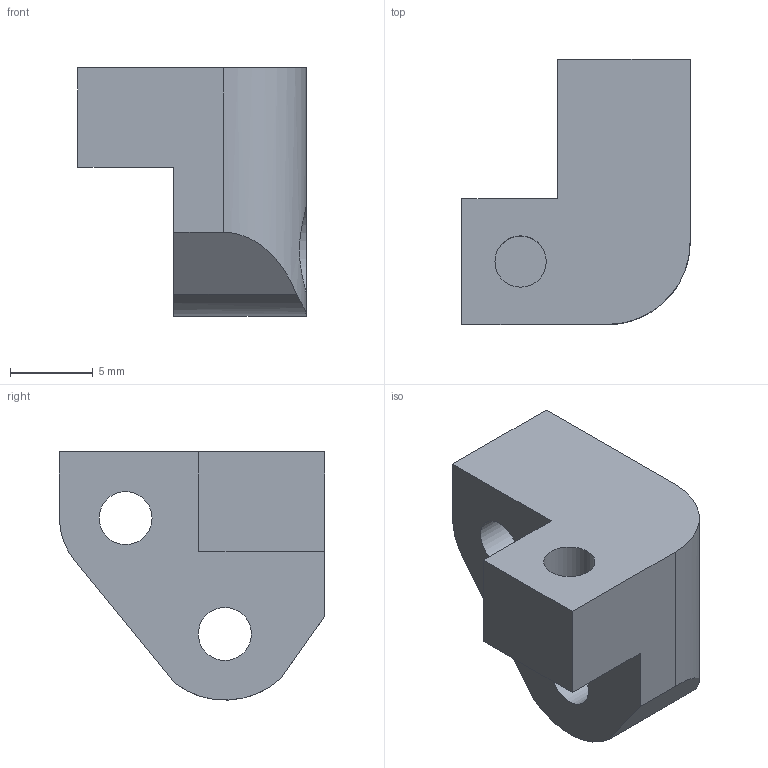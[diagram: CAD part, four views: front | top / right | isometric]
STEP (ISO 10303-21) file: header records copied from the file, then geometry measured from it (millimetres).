
FILE_DESCRIPTION(/* description */ (''),/* implementation_level */ '2;1');
FILE_NAME(/* name */ '4-29-1 Bottom steering mount left.step',/* time_stamp */ '2025-05-10T22:19:18+02:00',/* author */ (''),/* organization */ (''),/* preprocessor_version */ 'ST-DEVELOPER v20.1',/* originating_system */ 'Autodesk Translation Framework v14.4.0.0',/* authorisation */ '');
FILE_SCHEMA (('AUTOMOTIVE_DESIGN { 1 0 10303 214 3 1 1 }'));
Length unit declared in the file: millimetre
Products named in the file (1): Bottom steering mount left
Bounding box: 13.8 x 16.03 x 15 mm (x, y, z)
Volume: 1454.8 mm3; surface area: 1168.6 mm2
Topology: 1 solids, 1 shells, 21 faces, 51 edges, 34 vertices
Faces by surface type: plane 13, cylinder 8
Full cylindrical faces by diameter (mm): 3.1 x1, 3.2 x2, 6 x2
Entity records: 688 total; most frequent: CARTESIAN_POINT 132, DIRECTION 108, ORIENTED_EDGE 102, EDGE_CURVE 51, AXIS2_PLACEMENT_3D 38, VERTEX_POINT 34, LINE 32, VECTOR 32
